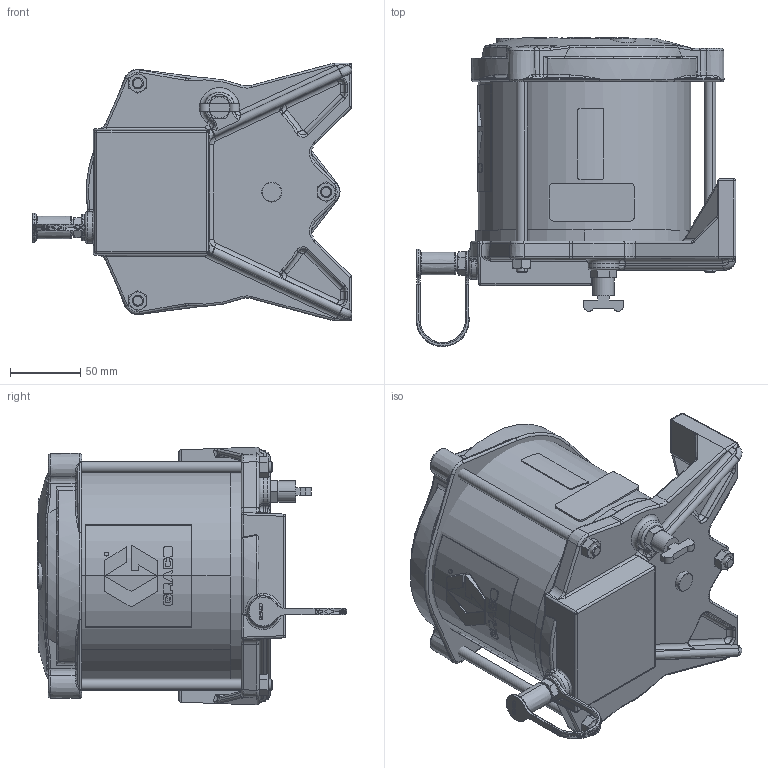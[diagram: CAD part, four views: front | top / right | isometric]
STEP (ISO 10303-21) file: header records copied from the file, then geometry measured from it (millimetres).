
FILE_DESCRIPTION((''),'2;1');
FILE_NAME('562910-EN-N_PRT','2019-12-31T21:45:31',('qusrh3'),(''),'CREO PARAMETRIC BY PTC INC, 2019030','CREO PARAMETRIC BY PTC INC, 2019030','');
FILE_SCHEMA(('CONFIG_CONTROL_DESIGN'));
Length unit declared in the file: inch
Products named in the file (1): 562910-EN-N_PRT
Bounding box: 228.18 x 220.64 x 184.03 mm (x, y, z)
Surface area: 290513.7 mm2 (no closed solid volume)
Topology: 0 solids, 93 shells, 1511 faces, 4367 edges, 2943 vertices
Faces by surface type: plane 647, bspline 463, cylinder 181, cone 93, torus 56, extrusion 52, sphere 19
Entity records: 70050 total; most frequent: CARTESIAN_POINT 34961, ORIENTED_EDGE 7299, DIRECTION 5837, EDGE_CURVE 4367, VERTEX_POINT 2943, VECTOR 2719, LINE 2667, AXIS2_PLACEMENT_3D 1559
